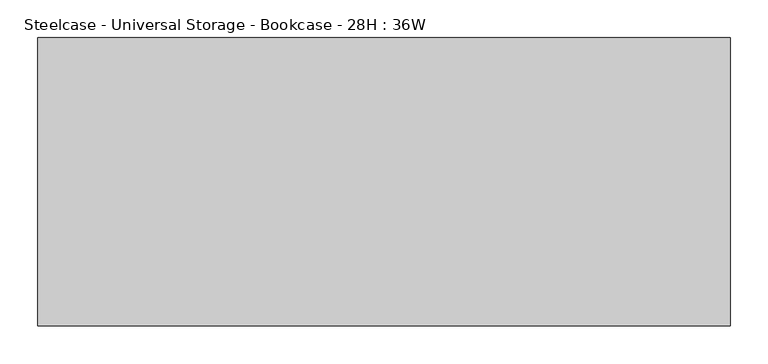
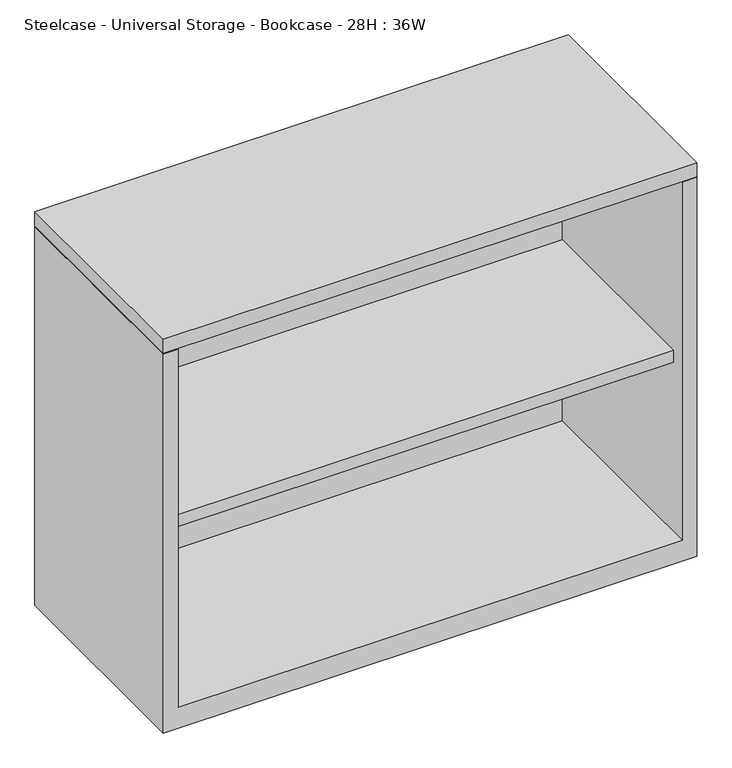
"""IFC4 building model written with IfcOpenShell, lengths in millimetres: furniture geometry, Steelcase - Universal Storage - Bookcase - 28H : 36W."""

import ifcopenshell
import ifcopenshell.guid

model = None  # the IFC model being written
_history = None  # IfcOwnerHistory: only IFC2X3 demands one
_inside = {}  # id of a spatial element -> (the spatial element, [elements in it])
_under = {}  # id of a project, library or spatial element -> (it, [spatial elements below it])
_declared = {}  # id of a project -> (the project, [libraries it declares])
_typed = {}  # id of a type object -> (the type object, [elements of that type])
_made_of = {}  # id of a material, layer set ... -> (it, [elements and type objects made of it])


def new_model(schema):
    """Start an empty IFC model of exactly this schema.

    Asked for "IFC4X3", IfcOpenShell would pick the latest addendum, in which some entities
    have other attributes; the version numbers below select the first issue.
    IFC2X3 requires an IfcOwnerHistory on every rooted entity: one is made here for all.
    """
    global model, _history
    if schema == "IFC4X3":
        model = ifcopenshell.file(schema_version=(4, 3, 0, 0))
    else:
        model = ifcopenshell.file(schema=schema)
    _inside.clear()
    _under.clear()
    _declared.clear()
    _typed.clear()
    _made_of.clear()
    _history = None
    if model.schema == "IFC2X3":
        org = make("IfcOrganization", Name="unknown")
        user = make(
            "IfcPersonAndOrganization",
            ThePerson=make("IfcPerson", FamilyName="unknown"),
            TheOrganization=org,
        )
        app = make(
            "IfcApplication",
            ApplicationDeveloper=org,
            Version="unknown",
            ApplicationFullName="unknown",
            ApplicationIdentifier="unknown",
        )
        _history = make(
            "IfcOwnerHistory",
            OwningUser=user,
            OwningApplication=app,
            ChangeAction="ADDED",
            CreationDate=0,
        )
    return model


def make(cls, **values):
    """One entity of the class cls with the attributes given. An attribute that is None is left unset."""
    return model.create_entity(
        cls, **{name: value for name, value in values.items() if value is not None}
    )


def rooted(cls, **values):
    """An entity with a GlobalId (a new one), such as an element, a storey or a relation."""
    return make(cls, GlobalId=ifcopenshell.guid.new(), OwnerHistory=_history, **values)


def si_unit(unit_type, name, prefix=None):
    """IfcSIUnit, for example si_unit("LENGTHUNIT", "METRE", prefix="MILLI")."""
    return make("IfcSIUnit", UnitType=unit_type, Prefix=prefix, Name=name)


def assignment(units):
    """IfcUnitAssignment: the units of a project."""
    return None if units is None else make("IfcUnitAssignment", Units=units)


def point(xyz):
    """IfcCartesianPoint."""
    return None if xyz is None else make("IfcCartesianPoint", Coordinates=xyz)


def direction(xyz):
    """IfcDirection."""
    return None if xyz is None else make("IfcDirection", DirectionRatios=xyz)


def frame(location, z_axis=None, x_axis=None):
    """IfcAxis2Placement3D, a coordinate frame: its origin and axes. An axis left out is left unset."""
    return make(
        "IfcAxis2Placement3D",
        Location=point(location),
        Axis=direction(z_axis),
        RefDirection=direction(x_axis),
    )


def origin():
    """The frame at (0, 0, 0) with its axes left unset."""
    return frame((0.0, 0.0, 0.0))


def place(relative_to, where):
    """IfcLocalPlacement: puts the frame where relative to a parent placement (None: the world)."""
    return make(
        "IfcLocalPlacement", PlacementRelTo=relative_to, RelativePlacement=where
    )


def context(
    kind, dimensions, precision=None, world=None, true_north=None, identifier=None
):
    """IfcGeometricRepresentationContext, for example the 3D "Model" context."""
    return make(
        "IfcGeometricRepresentationContext",
        ContextIdentifier=identifier,
        ContextType=kind,
        CoordinateSpaceDimension=dimensions,
        Precision=precision,
        WorldCoordinateSystem=world,
        TrueNorth=true_north,
    )


def project(units=None, contexts=None):
    """IfcProject with its units and contexts."""
    return rooted(
        "IfcProject",
        Name="project",
        RepresentationContexts=contexts,
        UnitsInContext=assignment(units),
    )


def spatial(cls, under=None, at=None, **own):
    """A site, building, storey or space (cls), placed at a placement, below another one or the project."""
    s = rooted(cls, ObjectPlacement=at, **own)
    if under is not None:
        _under.setdefault(under.id(), (under, []))[1].append(s)
    return s


def polyline(points):
    """IfcPolyline through the points."""
    return make("IfcPolyline", Points=[point(p) for p in points])


def outline(outer, holes=None, kind="AREA"):
    """IfcArbitraryClosedProfileDef: a profile drawn as a closed curve; with holes, ...WithVoids."""
    if holes is None:
        return make("IfcArbitraryClosedProfileDef", ProfileType=kind, OuterCurve=outer)
    return make(
        "IfcArbitraryProfileDefWithVoids",
        ProfileType=kind,
        OuterCurve=outer,
        InnerCurves=holes,
    )


def extrude(swept, where, along, depth):
    """IfcExtrudedAreaSolid: the profile swept, set in the frame where, extruded along a direction by depth."""
    return make(
        "IfcExtrudedAreaSolid",
        SweptArea=swept,
        Position=where,
        ExtrudedDirection=direction(along),
        Depth=depth,
    )


def faces_of(points, faces, orient=None, outer=None):
    """IfcFace entities. A face is a list of loops; a loop is a list of indices into points, from 0.

    orient and outer hold one flag for each loop. By default every Orientation is true, the
    first loop of a face is its IfcFaceOuterBound and the others are IfcFaceBound.
    """
    made = []
    for i, loops in enumerate(faces):
        bounds = []
        for j, loop in enumerate(loops):
            is_outer = j == 0 if outer is None else outer[i][j]
            bounds.append(
                make(
                    "IfcFaceOuterBound" if is_outer else "IfcFaceBound",
                    Bound=make("IfcPolyLoop", Polygon=[points[k] for k in loop]),
                    Orientation=True if orient is None else orient[i][j],
                )
            )
        made.append(make("IfcFace", Bounds=bounds))
    return made


def faceted_brep(points, faces, orient=None, outer=None, voids=None):
    """IfcFacetedBrep: a solid bounded by flat faces; with voids (closed shells), ...WithVoids."""
    shared = [point(p) for p in points]
    hull = make("IfcClosedShell", CfsFaces=faces_of(shared, faces, orient, outer))
    if voids is None:
        return make("IfcFacetedBrep", Outer=hull)
    return make(
        "IfcFacetedBrepWithVoids",
        Outer=hull,
        Voids=[
            make(cls, CfsFaces=faces_of(shared, fs, o, b)) for cls, fs, o, b in voids
        ],
    )


def shape(context_of_items, identifier, shape_type, items):
    """IfcShapeRepresentation: the items that make up one representation, for example the "Body"."""
    return make(
        "IfcShapeRepresentation",
        ContextOfItems=context_of_items,
        RepresentationIdentifier=identifier,
        RepresentationType=shape_type,
        Items=items,
    )


def source(mapping_origin, context_of_items, identifier, shape_type, items):
    """IfcRepresentationMap: a shape defined once, which mapped items show again and again."""
    return make(
        "IfcRepresentationMap",
        MappingOrigin=mapping_origin,
        MappedRepresentation=shape(context_of_items, identifier, shape_type, items),
    )


def transform(
    local_origin,
    x_axis=None,
    y_axis=None,
    z_axis=None,
    scale=None,
    scale2=None,
    scale3=None,
    uniform=True,
):
    """IfcCartesianTransformationOperator3D, or its non-uniform kind. x_axis, y_axis, z_axis: its Axis1, 2, 3."""
    if uniform:
        return make(
            "IfcCartesianTransformationOperator3D",
            Axis1=direction(x_axis),
            Axis2=direction(y_axis),
            LocalOrigin=point(local_origin),
            Scale=scale,
            Axis3=direction(z_axis),
        )
    return make(
        "IfcCartesianTransformationOperator3DnonUniform",
        Axis1=direction(x_axis),
        Axis2=direction(y_axis),
        LocalOrigin=point(local_origin),
        Scale=scale,
        Axis3=direction(z_axis),
        Scale2=scale2,
        Scale3=scale3,
    )


def mapped(mapping_source, mapping_target):
    """IfcMappedItem: shows the shape of a source again, moved by a transform."""
    return make(
        "IfcMappedItem", MappingSource=mapping_source, MappingTarget=mapping_target
    )


def made_of(thing, what):
    """Note that an element or type object is made of a material, layer set ...; save() writes the relation."""
    if what is not None:
        _made_of.setdefault(what.id(), (what, []))[1].append(thing)
    return thing


def element(
    cls,
    number,
    at=None,
    inside=None,
    cuts=None,
    type_object=None,
    material=None,
    context=None,
    identifier="Body",
    shape_type=None,
    held_by="IfcProductDefinitionShape",
    body=None,
    shapes=None,
    **own,
):
    """One element of the class cls, such as IfcWall. Its Tag is "e" and its number.

    at: its placement. inside: the storey or other place that contains it. cuts: it is an
    opening in that element (IfcRelVoidsElement). A single representation is given by context,
    identifier, shape_type and body (its items); several are given by shapes. held_by: the class
    of the entity that holds the representations. save() writes the other relations.
    """
    e = rooted(cls, Tag="e%d" % number, ObjectPlacement=at, **own)
    if body is not None:
        shapes = [shape(context, identifier, shape_type, body)]
    if shapes is not None:
        e.Representation = make(held_by, Representations=shapes)
    if inside is not None:
        _inside.setdefault(inside.id(), (inside, []))[1].append(e)
    if cuts is not None:
        rooted(
            "IfcRelVoidsElement", RelatingBuildingElement=cuts, RelatedOpeningElement=e
        )
    if type_object is not None:
        _typed.setdefault(type_object.id(), (type_object, []))[1].append(e)
    return made_of(e, material)


def aggregate(whole, parts):
    """IfcRelAggregates: a whole, such as a stair, and the parts it consists of."""
    return rooted("IfcRelAggregates", RelatingObject=whole, RelatedObjects=parts)


def save(model, path):
    """Write the relations noted so far, then the file.

    IfcRelAggregates (storeys below a building ...), IfcRelContainedInSpatialStructure (elements
    in a storey), IfcRelDefinesByType, IfcRelAssociatesMaterial and IfcRelDeclares: one each for
    every whole, place, type object, material and project.
    """
    for whole, parts in _under.values():
        aggregate(whole, parts)
    for where, things in _inside.values():
        rooted(
            "IfcRelContainedInSpatialStructure",
            RelatedElements=things,
            RelatingStructure=where,
        )
    for kind, things in _typed.values():
        rooted("IfcRelDefinesByType", RelatedObjects=things, RelatingType=kind)
    for what, things in _made_of.values():
        rooted("IfcRelAssociatesMaterial", RelatedObjects=things, RelatingMaterial=what)
    for by, libraries in _declared.values():
        rooted("IfcRelDeclares", RelatingContext=by, RelatedDefinitions=libraries)
    model.write(path)


def steelcase_universal_storage_bookcase_28h_36w_deb0ed90(model_context):
    return source(origin(), model_context, "Body", "SolidModel", [
        extrude(outline(polyline([(914.4, -98.552), (914.4, -479.552), (0.0, -479.552), (0.0, -98.552), (914.4, -98.552)])), frame((0.0, 0.0, 687.3239516), z_axis=(0.0, 0.0, 1.0), x_axis=(1.0, 0.0, 0.0)), (0.0, 0.0, 1.0), 25.4),
        extrude(outline(polyline([(889.0000242, -123.9520008), (889.0000242, -454.0250121), (25.4000008, -454.0250121), (25.4000008, -123.9520008), (889.0000242, -123.9520008)])), frame((0.0, 0.0, 344.424), z_axis=(0.0, 0.0, 1.0), x_axis=(1.0, 0.0, 0.0)), (0.0, 0.0, 1.0), 22.2249516),
        faceted_brep([(25.4000008, -479.552, 38.1), (889.0000242, -479.552, 38.1), (889.0000242, -123.9520008, 38.1), (25.4000008, -123.9520008, 38.1), (914.4, -98.552, 0.0), (914.4, -479.552, 0.0), (0.0, -479.552, 0.0), (0.0, -98.552, 0.0), (0.0, -98.552, 685.8), (914.4, -98.552, 685.8), (0.0, -479.552, 685.8), (914.4, -479.552, 685.8), (889.0000242, -479.552, 685.8), (25.4000008, -479.552, 685.8), (889.0000242, -123.9520008, 685.8), (25.4000008, -123.9520008, 685.8)], [[[0, 1, 2, 3]], [[4, 5, 6, 7]], [[4, 7, 8, 9]], [[8, 7, 6, 10]], [[10, 6, 5, 11, 12, 1, 0, 13]], [[11, 5, 4, 9]], [[14, 12, 11, 9, 8, 10, 13, 15]], [[12, 14, 2, 1]], [[15, 13, 0, 3]], [[14, 15, 3, 2]]]),
    ])


if __name__ == "__main__":
    model = new_model("IFC4")
    model_context = context("Model", 3, world=origin())
    ifc_project = project(units=[si_unit("LENGTHUNIT", "METRE", prefix="MILLI")], contexts=[model_context])
    site = spatial("IfcSite", under=ifc_project)
    building = spatial("IfcBuilding", under=site)
    placement = place(None, origin())
    steelcase_universal_storage_bookcase_28h_36w_shape = steelcase_universal_storage_bookcase_28h_36w_deb0ed90(model_context)
    element("IfcFurniture", 1, ObjectType="Steelcase - Universal Storage - Bookcase - 28H : 36W", at=placement, inside=building, context=model_context, shape_type="MappedRepresentation", body=[
        mapped(steelcase_universal_storage_bookcase_28h_36w_shape, transform((0.0, 0.0, 0.0), x_axis=(1.0, 0.0, 0.0), y_axis=(0.0, 1.0, 0.0), z_axis=(0.0, 0.0, 1.0))),
    ])
    save(model, "model.ifc")
